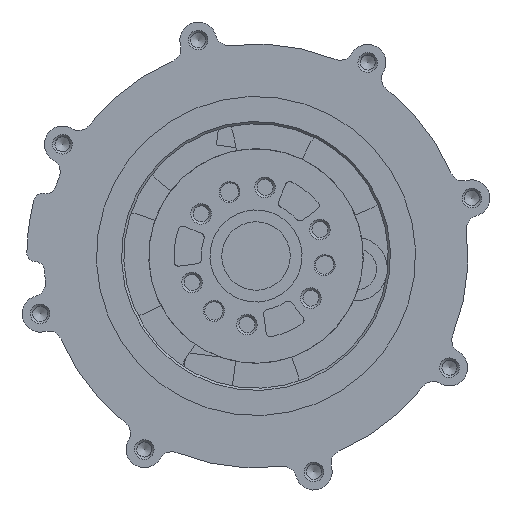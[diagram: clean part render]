
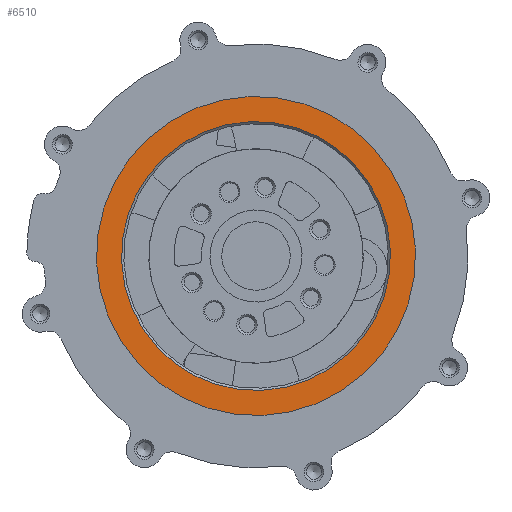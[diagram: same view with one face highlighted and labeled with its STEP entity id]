
A CAD part, front view. The second image highlights one B-rep face of the part: STEP entity #6510.
In plain terms, the highlighted planar face has unit normal (0, -1, 0).
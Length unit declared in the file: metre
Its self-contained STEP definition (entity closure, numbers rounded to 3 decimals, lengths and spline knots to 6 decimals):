
#2425=ORIENTED_EDGE('',*,*,#3535,.T.);
#2426=ORIENTED_EDGE('',*,*,#3534,.T.);
#3534=EDGE_CURVE('',#4237,#4237,#4760,.T.);
#3535=EDGE_CURVE('',#4238,#4238,#4761,.T.);
#4237=VERTEX_POINT('',#11380);
#4238=VERTEX_POINT('',#11383);
#4760=CIRCLE('',#7319,0.035);
#4761=CIRCLE('',#7321,0.0295);
#5290=EDGE_LOOP('',(#2425));
#5291=EDGE_LOOP('',(#2426));
#5900=FACE_BOUND('',#5290,.T.);
#5901=FACE_BOUND('',#5291,.T.);
#6167=PLANE('',#7320);
#6510=ADVANCED_FACE('',(#5900,#5901),#6167,.T.);
#7319=AXIS2_PLACEMENT_3D('',#11379,#9231,#9232);
#7320=AXIS2_PLACEMENT_3D('',#11381,#9233,#9234);
#7321=AXIS2_PLACEMENT_3D('',#11382,#9235,#9236);
#9231=DIRECTION('',(0.,-1.,0.));
#9232=DIRECTION('',(-0.991,0.,0.131));
#9233=DIRECTION('',(0.,-1.,0.));
#9234=DIRECTION('',(0.131,0.,0.991));
#9235=DIRECTION('',(0.,1.,0.));
#9236=DIRECTION('',(0.991,0.,-0.131));
#11379=CARTESIAN_POINT('',(-0.126,-0.02925,-0.094));
#11380=CARTESIAN_POINT('',(-0.160701,-0.02925,-0.089432));
#11381=CARTESIAN_POINT('',(-0.126,-0.02925,-0.094));
#11382=CARTESIAN_POINT('',(-0.126,-0.02925,-0.094));
#11383=CARTESIAN_POINT('',(-0.096752,-0.02925,-0.097851));
